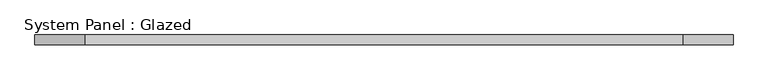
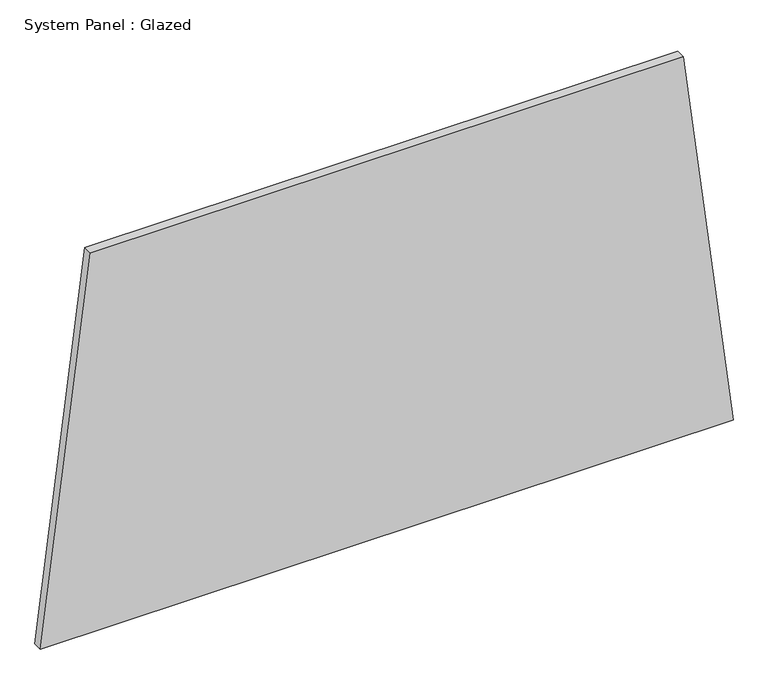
"""IFC4 building model written with IfcOpenShell, lengths in millimetres: plate geometry, System Panel : Glazed."""

from ifc_helpers import new_model, si_unit, frame, origin, place, context, project, spatial, polyline, outline, extrude, source, transform, mapped, element, save


def system_panel_glazed_700fa891(model_context):
    return source(origin(), model_context, "Body", "SweptSolid", [
        extrude(outline(polyline([(0.0, -913.0817547), (0.0, 913.0817547), (1058.634739, 781.344405), (1058.634739, -781.344405), (0.0, -913.0817547)])), frame((0.0, -44.45, 0.0), z_axis=(0.0, 1.0, 0.0), x_axis=(0.0, 0.0, 1.0)), (0.0, 0.0, 1.0), 25.4),
    ])


if __name__ == "__main__":
    model = new_model("IFC4")
    model_context = context("Model", 3, world=origin())
    ifc_project = project(units=[si_unit("LENGTHUNIT", "METRE", prefix="MILLI")], contexts=[model_context])
    site = spatial("IfcSite", under=ifc_project)
    building = spatial("IfcBuilding", under=site)
    placement = place(None, origin())
    system_panel_glazed_shape = system_panel_glazed_700fa891(model_context)
    element("IfcPlate", 1, ObjectType="System Panel : Glazed", at=placement, inside=building, context=model_context, shape_type="MappedRepresentation", body=[
        mapped(system_panel_glazed_shape, transform((0.0, 0.0, 0.0), x_axis=(1.0, 0.0, 0.0), y_axis=(0.0, 1.0, 0.0), z_axis=(0.0, 0.0, 1.0))),
    ])
    save(model, "model.ifc")
